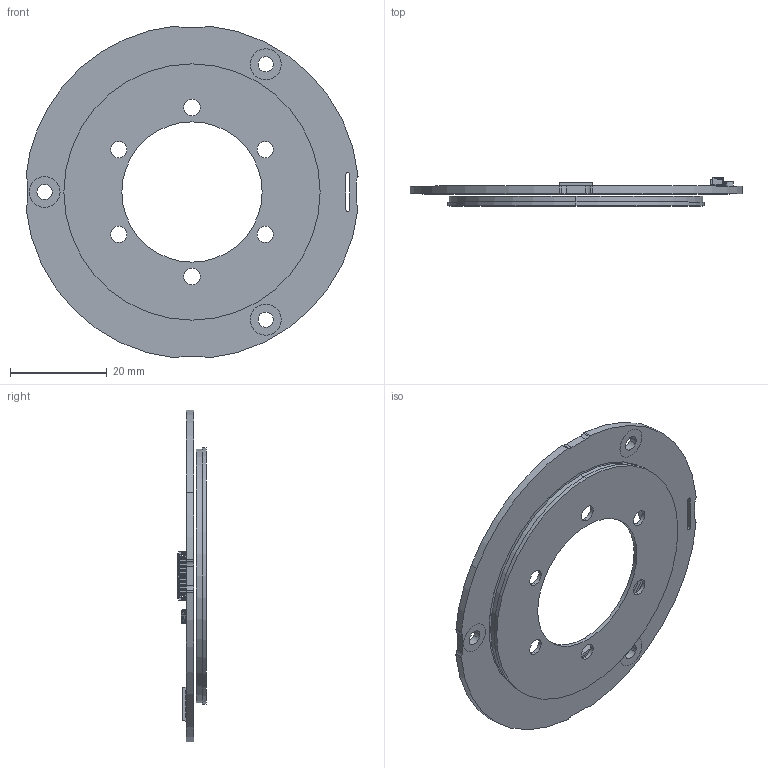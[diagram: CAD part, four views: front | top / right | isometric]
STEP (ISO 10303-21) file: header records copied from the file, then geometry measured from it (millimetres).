
FILE_DESCRIPTION (( 'STEP AP214' ), '1' );
FILE_NAME ('IND-ROT-069-A21_rev01.STEP', '2023-11-07T17:53:37', ( '' ), ( '' ), 'SwSTEP 2.0', 'SolidWorks 2021', '' );
FILE_SCHEMA (( 'AUTOMOTIVE_DESIGN' ));
Length unit declared in the file: millimetre
Products named in the file (1): IND-ROT-069-A21_rev01
Bounding box: 68.68 x 5.82 x 68.68 mm (x, y, z)
Volume: 6143.8 mm3; surface area: 11026.2 mm2
Topology: 17 solids, 17 shells, 1806 faces, 4727 edges, 2843 vertices
Faces by surface type: plane 811, cylinder 696, bspline 299
Entity records: 77246 total; most frequent: CARTESIAN_POINT 14787, ORIENTED_EDGE 9232, DIRECTION 8407, EDGE_CURVE 4616, VECTOR 2969, LINE 2969, VERTEX_POINT 2843, AXIS2_PLACEMENT_3D 2719
